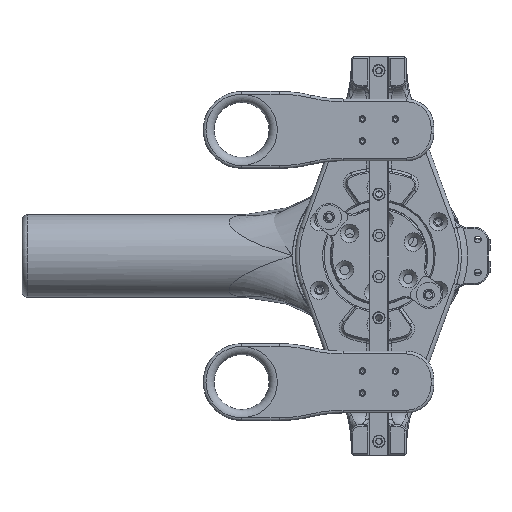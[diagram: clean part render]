
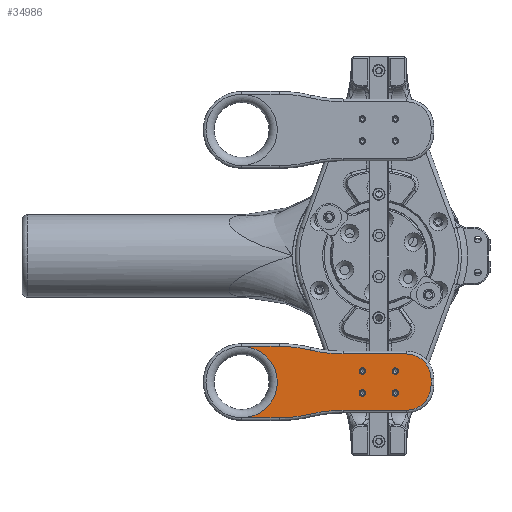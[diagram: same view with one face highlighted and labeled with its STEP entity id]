
A CAD part, front view. The second image highlights one B-rep face of the part: STEP entity #34986.
In plain terms, the highlighted planar face has unit normal (0, -1, 0) as drawn and (0, 0, -1) by its records, which use the part's own axes.
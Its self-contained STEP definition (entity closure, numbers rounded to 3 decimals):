
#96 = EDGE_LOOP ( 'NONE', ( #10906 ) ) ;
#366 = FACE_OUTER_BOUND ( 'NONE', #28348, .T. ) ;
#466 = CARTESIAN_POINT ( 'NONE',  ( 1., 10., 63. ) ) ;
#1591 = AXIS2_PLACEMENT_3D ( 'NONE', #17094, #12970, #8804 ) ;
#1676 = AXIS2_PLACEMENT_3D ( 'NONE', #34815, #17685, #51651 ) ;
#2294 = CARTESIAN_POINT ( 'NONE',  ( 21.5, -13.063, 63. ) ) ;
#2696 = EDGE_CURVE ( 'NONE', #32702, #22072, #34109, .T. ) ;
#2758 = CIRCLE ( 'NONE', #36293, 51. ) ;
#3176 = CIRCLE ( 'NONE', #26996, 51. ) ;
#3658 = VERTEX_POINT ( 'NONE', #47212 ) ;
#3672 = ORIENTED_EDGE ( 'NONE', *, *, #12364, .T. ) ;
#3721 = ORIENTED_EDGE ( 'NONE', *, *, #46978, .T. ) ;
#4220 = EDGE_CURVE ( 'NONE', #45161, #45342, #53419, .T. ) ;
#4618 = VECTOR ( 'NONE', #20265, 1000. ) ;
#4692 = EDGE_CURVE ( 'NONE', #11120, #16902, #23180, .T. ) ;
#4854 = EDGE_CURVE ( 'NONE', #27959, #49322, #29167, .T. ) ;
#4905 = CARTESIAN_POINT ( 'NONE',  ( 6.05, -6., 63. ) ) ;
#5146 = EDGE_CURVE ( 'NONE', #5508, #5508, #14439, .T. ) ;
#5508 = VERTEX_POINT ( 'NONE', #22658 ) ;
#5618 = CARTESIAN_POINT ( 'NONE',  ( 7.25, -6., 63. ) ) ;
#6059 = ORIENTED_EDGE ( 'NONE', *, *, #4220, .T. ) ;
#6248 = DIRECTION ( 'NONE',  ( -1., 0., 0. ) ) ;
#7390 = ORIENTED_EDGE ( 'NONE', *, *, #5146, .F. ) ;
#7583 = CIRCLE ( 'NONE', #16431, 1.2 ) ;
#7823 = CARTESIAN_POINT ( 'NONE',  ( 12.5, 19., 63. ) ) ;
#7992 = EDGE_CURVE ( 'NONE', #16902, #32702, #2758, .T. ) ;
#8392 = CARTESIAN_POINT ( 'NONE',  ( 11.25, -50., 63. ) ) ;
#8555 = ORIENTED_EDGE ( 'NONE', *, *, #7992, .T. ) ;
#8667 = DIRECTION ( 'NONE',  ( -1., 0., 0. ) ) ;
#8804 = DIRECTION ( 'NONE',  ( -1., 0., 0. ) ) ;
#9113 = DIRECTION ( 'NONE',  ( 0., 0., -1. ) ) ;
#9180 = EDGE_LOOP ( 'NONE', ( #40268 ) ) ;
#9484 = FACE_BOUND ( 'NONE', #9180, .T. ) ;
#9504 = DIRECTION ( 'NONE',  ( 0., 0., -1. ) ) ;
#10397 = LINE ( 'NONE', #23070, #34204 ) ;
#10476 = ORIENTED_EDGE ( 'NONE', *, *, #17040, .T. ) ;
#10535 = CIRCLE ( 'NONE', #1676, 1.2 ) ;
#10683 = DIRECTION ( 'NONE',  ( 0., 0., 1. ) ) ;
#10868 = DIRECTION ( 'NONE',  ( -1., 0., 0. ) ) ;
#10906 = ORIENTED_EDGE ( 'NONE', *, *, #14394, .F. ) ;
#11056 = CARTESIAN_POINT ( 'NONE',  ( 12.5, 19., 63. ) ) ;
#11120 = VERTEX_POINT ( 'NONE', #29447 ) ;
#12364 = EDGE_CURVE ( 'NONE', #3658, #11120, #10397, .T. ) ;
#12970 = DIRECTION ( 'NONE',  ( 0., 0., -1. ) ) ;
#13317 = EDGE_CURVE ( 'NONE', #22072, #45161, #25414, .T. ) ;
#13467 = AXIS2_PLACEMENT_3D ( 'NONE', #18971, #52388, #6248 ) ;
#13479 = AXIS2_PLACEMENT_3D ( 'NONE', #26348, #21925, #8667 ) ;
#14035 = EDGE_CURVE ( 'NONE', #24478, #45594, #51717, .T. ) ;
#14316 = CARTESIAN_POINT ( 'NONE',  ( 22.902, -24.941, 63. ) ) ;
#14394 = EDGE_CURVE ( 'NONE', #15995, #15995, #10535, .T. ) ;
#14439 = CIRCLE ( 'NONE', #52317, 1.2 ) ;
#15995 = VERTEX_POINT ( 'NONE', #24566 ) ;
#16035 = CARTESIAN_POINT ( 'NONE',  ( 10., 19., 63. ) ) ;
#16431 = AXIS2_PLACEMENT_3D ( 'NONE', #20971, #37823, #42224 ) ;
#16902 = VERTEX_POINT ( 'NONE', #24657 ) ;
#17040 = EDGE_CURVE ( 'NONE', #49322, #34238, #3176, .T. ) ;
#17094 = CARTESIAN_POINT ( 'NONE',  ( 10., 10., 63. ) ) ;
#17685 = DIRECTION ( 'NONE',  ( 0., 0., -1. ) ) ;
#17984 = VERTEX_POINT ( 'NONE', #27116 ) ;
#18055 = DIRECTION ( 'NONE',  ( -1., 0., 0. ) ) ;
#18843 = CARTESIAN_POINT ( 'NONE',  ( 24.25, 0., 63. ) ) ;
#18971 = CARTESIAN_POINT ( 'NONE',  ( 47.25, -36.354, 63. ) ) ;
#20246 = EDGE_CURVE ( 'NONE', #30318, #30318, #23523, .T. ) ;
#20265 = DIRECTION ( 'NONE',  ( 1., 0., 0. ) ) ;
#20971 = CARTESIAN_POINT ( 'NONE',  ( 15.25, -6., 63. ) ) ;
#21274 = DIRECTION ( 'NONE',  ( -1., 0., 0. ) ) ;
#21841 = DIRECTION ( 'NONE',  ( -1., 0., 0. ) ) ;
#21925 = DIRECTION ( 'NONE',  ( 0., 0., -1. ) ) ;
#22072 = VERTEX_POINT ( 'NONE', #466 ) ;
#22463 = FACE_BOUND ( 'NONE', #42194, .T. ) ;
#22559 = DIRECTION ( 'NONE',  ( -1., 0., 0. ) ) ;
#22627 = EDGE_LOOP ( 'NONE', ( #23478 ) ) ;
#22658 = CARTESIAN_POINT ( 'NONE',  ( 14.05, 6., 63. ) ) ;
#23070 = CARTESIAN_POINT ( 'NONE',  ( -1.75, 0., 63. ) ) ;
#23180 = CIRCLE ( 'NONE', #13467, 49. ) ;
#23478 = ORIENTED_EDGE ( 'NONE', *, *, #20246, .F. ) ;
#23523 = CIRCLE ( 'NONE', #25278, 1.2 ) ;
#24478 = VERTEX_POINT ( 'NONE', #32711 ) ;
#24566 = CARTESIAN_POINT ( 'NONE',  ( 6.05, 6., 63. ) ) ;
#24657 = CARTESIAN_POINT ( 'NONE',  ( -0.403, -24.941, 63. ) ) ;
#25063 = CIRCLE ( 'NONE', #32141, 49. ) ;
#25101 = CARTESIAN_POINT ( 'NONE',  ( 1., -13.063, 63. ) ) ;
#25278 = AXIS2_PLACEMENT_3D ( 'NONE', #5618, #35463, #10868 ) ;
#25285 = DIRECTION ( 'NONE',  ( 0., -1., 0. ) ) ;
#25414 = CIRCLE ( 'NONE', #1591, 9. ) ;
#25884 = ORIENTED_EDGE ( 'NONE', *, *, #2696, .T. ) ;
#26348 = CARTESIAN_POINT ( 'NONE',  ( 0., 0., 63. ) ) ;
#26436 = CARTESIAN_POINT ( 'NONE',  ( -50., -13.063, 63. ) ) ;
#26584 = CARTESIAN_POINT ( 'NONE',  ( 21.5, -13.063, 63. ) ) ;
#26667 = DIRECTION ( 'NONE',  ( 0., 1., 0. ) ) ;
#26768 = ORIENTED_EDGE ( 'NONE', *, *, #31566, .T. ) ;
#26996 = AXIS2_PLACEMENT_3D ( 'NONE', #51929, #38126, #21841 ) ;
#27116 = CARTESIAN_POINT ( 'NONE',  ( 14.05, -6., 63. ) ) ;
#27419 = DIRECTION ( 'NONE',  ( 0., -1., 0. ) ) ;
#27811 = EDGE_CURVE ( 'NONE', #34238, #24478, #25063, .T. ) ;
#27959 = VERTEX_POINT ( 'NONE', #38069 ) ;
#28120 = VECTOR ( 'NONE', #27419, 1000. ) ;
#28348 = EDGE_LOOP ( 'NONE', ( #3721, #3672, #49117, #8555, #25884, #30770, #6059, #26768, #45371, #10476, #44912, #39411 ) ) ;
#28444 = DIRECTION ( 'NONE',  ( 0., 0., -1. ) ) ;
#28816 = CIRCLE ( 'NONE', #35001, 13. ) ;
#29167 = LINE ( 'NONE', #26584, #48769 ) ;
#29447 = CARTESIAN_POINT ( 'NONE',  ( -1.75, -36.354, 63. ) ) ;
#29953 = DIRECTION ( 'NONE',  ( 0., 0., 1. ) ) ;
#29968 = DIRECTION ( 'NONE',  ( 0., 1., 0. ) ) ;
#30318 = VERTEX_POINT ( 'NONE', #4905 ) ;
#30770 = ORIENTED_EDGE ( 'NONE', *, *, #13317, .T. ) ;
#31566 = EDGE_CURVE ( 'NONE', #45342, #27959, #38999, .T. ) ;
#32141 = AXIS2_PLACEMENT_3D ( 'NONE', #48603, #28444, #41143 ) ;
#32702 = VERTEX_POINT ( 'NONE', #25101 ) ;
#32711 = CARTESIAN_POINT ( 'NONE',  ( 24.25, -36.354, 63. ) ) ;
#33802 = DIRECTION ( 'NONE',  ( -1., 0., 0. ) ) ;
#34109 = LINE ( 'NONE', #50944, #44506 ) ;
#34204 = VECTOR ( 'NONE', #26667, 1000. ) ;
#34238 = VERTEX_POINT ( 'NONE', #14316 ) ;
#34815 = CARTESIAN_POINT ( 'NONE',  ( 7.25, 6., 63. ) ) ;
#34986 = ADVANCED_FACE ( 'NONE', ( #366, #22463, #46767, #9484, #50919 ), #46496, .T. ) ;
#35001 = AXIS2_PLACEMENT_3D ( 'NONE', #8392, #29953, #33802 ) ;
#35463 = DIRECTION ( 'NONE',  ( 0., 0., -1. ) ) ;
#36293 = AXIS2_PLACEMENT_3D ( 'NONE', #26436, #10683, #22559 ) ;
#37823 = DIRECTION ( 'NONE',  ( 0., 0., -1. ) ) ;
#38069 = CARTESIAN_POINT ( 'NONE',  ( 21.5, 10., 63. ) ) ;
#38126 = DIRECTION ( 'NONE',  ( 0., 0., 1. ) ) ;
#38999 = CIRCLE ( 'NONE', #46036, 9. ) ;
#39411 = ORIENTED_EDGE ( 'NONE', *, *, #14035, .T. ) ;
#40268 = ORIENTED_EDGE ( 'NONE', *, *, #46534, .F. ) ;
#41143 = DIRECTION ( 'NONE',  ( -1., 0., 0. ) ) ;
#42194 = EDGE_LOOP ( 'NONE', ( #7390 ) ) ;
#42224 = DIRECTION ( 'NONE',  ( -1., 0., 0. ) ) ;
#44506 = VECTOR ( 'NONE', #29968, 1000. ) ;
#44912 = ORIENTED_EDGE ( 'NONE', *, *, #27811, .T. ) ;
#45161 = VERTEX_POINT ( 'NONE', #16035 ) ;
#45342 = VERTEX_POINT ( 'NONE', #11056 ) ;
#45371 = ORIENTED_EDGE ( 'NONE', *, *, #4854, .T. ) ;
#45594 = VERTEX_POINT ( 'NONE', #54107 ) ;
#46036 = AXIS2_PLACEMENT_3D ( 'NONE', #48168, #9504, #18055 ) ;
#46496 = PLANE ( 'NONE',  #13479 ) ;
#46534 = EDGE_CURVE ( 'NONE', #17984, #17984, #7583, .T. ) ;
#46767 = FACE_BOUND ( 'NONE', #22627, .T. ) ;
#46946 = CARTESIAN_POINT ( 'NONE',  ( 15.25, 6., 63. ) ) ;
#46978 = EDGE_CURVE ( 'NONE', #45594, #3658, #28816, .T. ) ;
#47212 = CARTESIAN_POINT ( 'NONE',  ( -1.75, -50., 63. ) ) ;
#48168 = CARTESIAN_POINT ( 'NONE',  ( 12.5, 10., 63. ) ) ;
#48603 = CARTESIAN_POINT ( 'NONE',  ( -24.75, -36.354, 63. ) ) ;
#48769 = VECTOR ( 'NONE', #25285, 1000. ) ;
#49117 = ORIENTED_EDGE ( 'NONE', *, *, #4692, .T. ) ;
#49322 = VERTEX_POINT ( 'NONE', #2294 ) ;
#50919 = FACE_BOUND ( 'NONE', #96, .T. ) ;
#50944 = CARTESIAN_POINT ( 'NONE',  ( 1., 10., 63. ) ) ;
#51651 = DIRECTION ( 'NONE',  ( -1., 0., 0. ) ) ;
#51717 = LINE ( 'NONE', #18843, #28120 ) ;
#51929 = CARTESIAN_POINT ( 'NONE',  ( 72.5, -13.063, 63. ) ) ;
#52317 = AXIS2_PLACEMENT_3D ( 'NONE', #46946, #9113, #21274 ) ;
#52388 = DIRECTION ( 'NONE',  ( 0., 0., -1. ) ) ;
#53419 = LINE ( 'NONE', #7823, #4618 ) ;
#54107 = CARTESIAN_POINT ( 'NONE',  ( 24.25, -50., 63. ) ) ;
